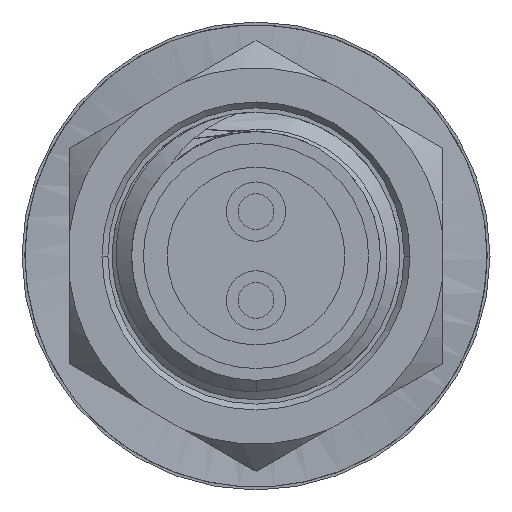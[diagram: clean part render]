
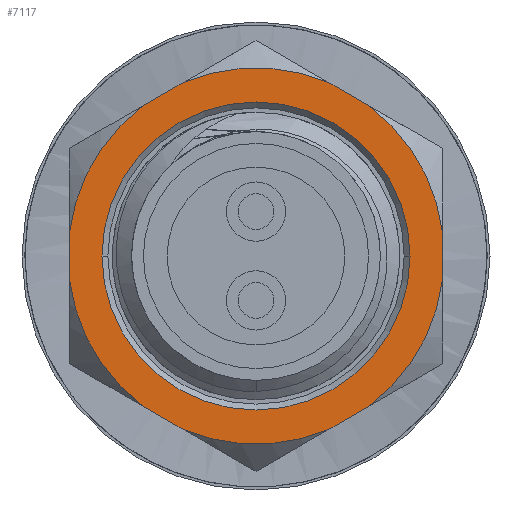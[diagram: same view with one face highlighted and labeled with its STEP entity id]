
A CAD part, front view. The second image highlights one B-rep face of the part: STEP entity #7117.
In plain terms, the highlighted planar face has unit normal (0, -1, 0) as drawn and (0, 0, 1) by its records, which use the part's own axes.
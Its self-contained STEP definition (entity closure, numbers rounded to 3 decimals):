
#14 = ORIENTED_EDGE ( 'NONE', *, *, #10190, .F. ) ;
#95 = VERTEX_POINT ( 'NONE', #5754 ) ;
#221 = EDGE_CURVE ( 'NONE', #4895, #4868, #3852, .T. ) ;
#243 = DIRECTION ( 'NONE',  ( 0., -1., 0. ) ) ;
#289 = VERTEX_POINT ( 'NONE', #4037 ) ;
#337 = CARTESIAN_POINT ( 'NONE',  ( 3.15, -1.819, 2. ) ) ;
#342 = CIRCLE ( 'NONE', #1520, 3.175 ) ;
#714 = CARTESIAN_POINT ( 'NONE',  ( 0., 0., 2. ) ) ;
#764 = CARTESIAN_POINT ( 'NONE',  ( 1.919, -2.529, 2. ) ) ;
#806 = CARTESIAN_POINT ( 'NONE',  ( 1.231, -2.927, 2. ) ) ;
#1075 = CARTESIAN_POINT ( 'NONE',  ( -3.15, -1.819, 2. ) ) ;
#1182 = VERTEX_POINT ( 'NONE', #1655 ) ;
#1490 = CARTESIAN_POINT ( 'NONE',  ( 3.15, -0.398, 2. ) ) ;
#1520 = AXIS2_PLACEMENT_3D ( 'NONE', #8160, #2649, #9076 ) ;
#1625 = VERTEX_POINT ( 'NONE', #8161 ) ;
#1639 = DIRECTION ( 'NONE',  ( 1., 0., 0. ) ) ;
#1655 = CARTESIAN_POINT ( 'NONE',  ( -1.231, -2.927, 2. ) ) ;
#1784 = EDGE_CURVE ( 'NONE', #6919, #6206, #1877, .T. ) ;
#1877 = LINE ( 'NONE', #337, #8922 ) ;
#2077 = CARTESIAN_POINT ( 'NONE',  ( -3.15, 1.819, 2. ) ) ;
#2135 = ORIENTED_EDGE ( 'NONE', *, *, #10859, .F. ) ;
#2340 = CARTESIAN_POINT ( 'NONE',  ( -1.919, 2.529, 2. ) ) ;
#2353 = DIRECTION ( 'NONE',  ( 1., 0., 0. ) ) ;
#2382 = ORIENTED_EDGE ( 'NONE', *, *, #4443, .F. ) ;
#2505 = ORIENTED_EDGE ( 'NONE', *, *, #4267, .T. ) ;
#2649 = DIRECTION ( 'NONE',  ( 0., 0., -1. ) ) ;
#2713 = ORIENTED_EDGE ( 'NONE', *, *, #10891, .T. ) ;
#2721 = CIRCLE ( 'NONE', #4131, 3.175 ) ;
#2948 = ORIENTED_EDGE ( 'NONE', *, *, #10840, .F. ) ;
#3158 = CARTESIAN_POINT ( 'NONE',  ( 0., -3.637, 2. ) ) ;
#3189 = ORIENTED_EDGE ( 'NONE', *, *, #3408, .F. ) ;
#3368 = AXIS2_PLACEMENT_3D ( 'NONE', #9113, #3615, #10009 ) ;
#3392 = CARTESIAN_POINT ( 'NONE',  ( 0., 0., 2. ) ) ;
#3408 = EDGE_CURVE ( 'NONE', #3794, #6206, #10607, .T. ) ;
#3591 = EDGE_CURVE ( 'NONE', #9193, #1182, #11610, .T. ) ;
#3615 = DIRECTION ( 'NONE',  ( 0., 0., -1. ) ) ;
#3655 = DIRECTION ( 'NONE',  ( 0., 0., -1. ) ) ;
#3794 = VERTEX_POINT ( 'NONE', #7275 ) ;
#3834 = DIRECTION ( 'NONE',  ( 0.866, -0.5, 0. ) ) ;
#3852 = LINE ( 'NONE', #3158, #8475 ) ;
#3861 = VECTOR ( 'NONE', #243, 1000. ) ;
#3922 = AXIS2_PLACEMENT_3D ( 'NONE', #714, #7158, #1639 ) ;
#3972 = CARTESIAN_POINT ( 'NONE',  ( 0., 0., 2. ) ) ;
#3988 = AXIS2_PLACEMENT_3D ( 'NONE', #3972, #10387, #4915 ) ;
#4037 = CARTESIAN_POINT ( 'NONE',  ( -1.231, 2.927, 2. ) ) ;
#4131 = AXIS2_PLACEMENT_3D ( 'NONE', #3392, #9798, #4303 ) ;
#4267 = EDGE_CURVE ( 'NONE', #95, #7525, #9028, .T. ) ;
#4303 = DIRECTION ( 'NONE',  ( 1., 0., 0. ) ) ;
#4443 = EDGE_CURVE ( 'NONE', #4895, #1182, #2721, .T. ) ;
#4444 = AXIS2_PLACEMENT_3D ( 'NONE', #5091, #7883, #2353 ) ;
#4750 = ORIENTED_EDGE ( 'NONE', *, *, #3591, .T. ) ;
#4830 = VERTEX_POINT ( 'NONE', #11741 ) ;
#4868 = VERTEX_POINT ( 'NONE', #764 ) ;
#4895 = VERTEX_POINT ( 'NONE', #806 ) ;
#4915 = DIRECTION ( 'NONE',  ( 1., 0., 0. ) ) ;
#4922 = CIRCLE ( 'NONE', #3922, 2.6 ) ;
#4930 = CIRCLE ( 'NONE', #3368, 3.175 ) ;
#5091 = CARTESIAN_POINT ( 'NONE',  ( 0., 3.637, 2. ) ) ;
#5214 = AXIS2_PLACEMENT_3D ( 'NONE', #9156, #3655, #10057 ) ;
#5358 = DIRECTION ( 'NONE',  ( 0., 0., -1. ) ) ;
#5475 = CARTESIAN_POINT ( 'NONE',  ( 0., 0., 2. ) ) ;
#5615 = ORIENTED_EDGE ( 'NONE', *, *, #1784, .T. ) ;
#5657 = EDGE_CURVE ( 'NONE', #3794, #8898, #10915, .T. ) ;
#5754 = CARTESIAN_POINT ( 'NONE',  ( -3.15, 0.398, 2. ) ) ;
#5899 = EDGE_LOOP ( 'NONE', ( #2713, #8375 ) ) ;
#6062 = DIRECTION ( 'NONE',  ( 0.866, 0.5, 0. ) ) ;
#6206 = VERTEX_POINT ( 'NONE', #7628 ) ;
#6299 = AXIS2_PLACEMENT_3D ( 'NONE', #10833, #5358, #11761 ) ;
#6412 = DIRECTION ( 'NONE',  ( 1., 0., 0. ) ) ;
#6655 = FACE_OUTER_BOUND ( 'NONE', #7860, .T. ) ;
#6813 = DIRECTION ( 'NONE',  ( 0., 1., 0. ) ) ;
#6833 = CARTESIAN_POINT ( 'NONE',  ( 1.231, 2.927, 2. ) ) ;
#6843 = EDGE_CURVE ( 'NONE', #289, #7588, #10772, .T. ) ;
#6919 = VERTEX_POINT ( 'NONE', #1490 ) ;
#6972 = DIRECTION ( 'NONE',  ( -0.866, -0.5, 0. ) ) ;
#7117 = ADVANCED_FACE ( 'NONE', ( #11503, #6655 ), #10562, .T. ) ;
#7158 = DIRECTION ( 'NONE',  ( 0., 0., -1. ) ) ;
#7275 = CARTESIAN_POINT ( 'NONE',  ( 1.919, 2.529, 2. ) ) ;
#7422 = CARTESIAN_POINT ( 'NONE',  ( -1.919, -2.529, 2. ) ) ;
#7525 = VERTEX_POINT ( 'NONE', #8724 ) ;
#7588 = VERTEX_POINT ( 'NONE', #2340 ) ;
#7628 = CARTESIAN_POINT ( 'NONE',  ( 3.15, 0.398, 2. ) ) ;
#7860 = EDGE_LOOP ( 'NONE', ( #2948, #5615, #3189, #9050, #11026, #8962, #2135, #2505, #14, #4750, #2382, #9453 ) ) ;
#7883 = DIRECTION ( 'NONE',  ( 0., 0., 1. ) ) ;
#7941 = CARTESIAN_POINT ( 'NONE',  ( 0., 3.637, 2. ) ) ;
#8129 = CARTESIAN_POINT ( 'NONE',  ( 3.15, 1.819, 2. ) ) ;
#8160 = CARTESIAN_POINT ( 'NONE',  ( 0., 0., 2. ) ) ;
#8161 = CARTESIAN_POINT ( 'NONE',  ( -2.6, 0., 2. ) ) ;
#8170 = DIRECTION ( 'NONE',  ( -0.866, 0.5, 0. ) ) ;
#8324 = AXIS2_PLACEMENT_3D ( 'NONE', #5475, #11869, #6412 ) ;
#8375 = ORIENTED_EDGE ( 'NONE', *, *, #11861, .T. ) ;
#8475 = VECTOR ( 'NONE', #6062, 1000. ) ;
#8724 = CARTESIAN_POINT ( 'NONE',  ( -3.15, -0.398, 2. ) ) ;
#8898 = VERTEX_POINT ( 'NONE', #6833 ) ;
#8922 = VECTOR ( 'NONE', #6813, 1000. ) ;
#8962 = ORIENTED_EDGE ( 'NONE', *, *, #6843, .T. ) ;
#9028 = LINE ( 'NONE', #2077, #3861 ) ;
#9050 = ORIENTED_EDGE ( 'NONE', *, *, #5657, .T. ) ;
#9076 = DIRECTION ( 'NONE',  ( 1., 0., 0. ) ) ;
#9113 = CARTESIAN_POINT ( 'NONE',  ( 0., 0., 2. ) ) ;
#9156 = CARTESIAN_POINT ( 'NONE',  ( 0., 0., 2. ) ) ;
#9193 = VERTEX_POINT ( 'NONE', #7422 ) ;
#9194 = VECTOR ( 'NONE', #3834, 1000. ) ;
#9453 = ORIENTED_EDGE ( 'NONE', *, *, #221, .T. ) ;
#9798 = DIRECTION ( 'NONE',  ( 0., 0., -1. ) ) ;
#10009 = DIRECTION ( 'NONE',  ( 1., 0., 0. ) ) ;
#10057 = DIRECTION ( 'NONE',  ( 1., 0., 0. ) ) ;
#10190 = EDGE_CURVE ( 'NONE', #9193, #7525, #10517, .T. ) ;
#10233 = CIRCLE ( 'NONE', #8324, 3.175 ) ;
#10333 = EDGE_CURVE ( 'NONE', #289, #8898, #10233, .T. ) ;
#10387 = DIRECTION ( 'NONE',  ( 0., 0., -1. ) ) ;
#10504 = VECTOR ( 'NONE', #6972, 1000. ) ;
#10517 = CIRCLE ( 'NONE', #3988, 3.175 ) ;
#10562 = PLANE ( 'NONE',  #4444 ) ;
#10607 = CIRCLE ( 'NONE', #6299, 3.175 ) ;
#10636 = VECTOR ( 'NONE', #8170, 1000. ) ;
#10772 = LINE ( 'NONE', #7941, #10504 ) ;
#10833 = CARTESIAN_POINT ( 'NONE',  ( 0., 0., 2. ) ) ;
#10840 = EDGE_CURVE ( 'NONE', #6919, #4868, #342, .T. ) ;
#10859 = EDGE_CURVE ( 'NONE', #95, #7588, #4930, .T. ) ;
#10891 = EDGE_CURVE ( 'NONE', #4830, #1625, #11653, .T. ) ;
#10915 = LINE ( 'NONE', #8129, #10636 ) ;
#11026 = ORIENTED_EDGE ( 'NONE', *, *, #10333, .F. ) ;
#11503 = FACE_BOUND ( 'NONE', #5899, .T. ) ;
#11610 = LINE ( 'NONE', #1075, #9194 ) ;
#11653 = CIRCLE ( 'NONE', #5214, 2.6 ) ;
#11741 = CARTESIAN_POINT ( 'NONE',  ( 2.6, 0., 2. ) ) ;
#11761 = DIRECTION ( 'NONE',  ( 1., 0., 0. ) ) ;
#11861 = EDGE_CURVE ( 'NONE', #1625, #4830, #4922, .T. ) ;
#11869 = DIRECTION ( 'NONE',  ( 0., 0., -1. ) ) ;
